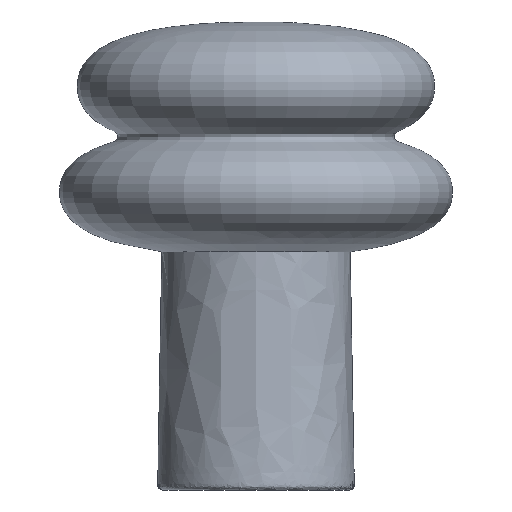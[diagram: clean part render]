
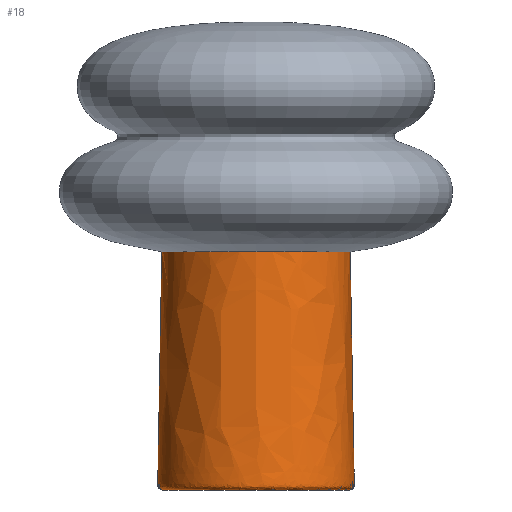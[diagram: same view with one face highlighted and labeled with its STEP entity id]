
A CAD part, front view. The second image highlights one B-rep face of the part: STEP entity #18.
In plain terms, the highlighted free-form (B-spline) face has degree [2, 3] with [5, 8] control points.
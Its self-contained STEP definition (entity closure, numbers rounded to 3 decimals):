
#18=ADVANCED_FACE('',(#23),#74,.T.);
#23=FACE_OUTER_BOUND('',#28,.T.);
#28=EDGE_LOOP('',(#41,#42,#43,#44));
#41=ORIENTED_EDGE('',*,*,#52,.T.);
#42=ORIENTED_EDGE('',*,*,#51,.F.);
#43=ORIENTED_EDGE('',*,*,#48,.T.);
#44=ORIENTED_EDGE('',*,*,#50,.F.);
#48=EDGE_CURVE('',#65,#66,#58,.T.);
#50=EDGE_CURVE('',#69,#66,#55,.T.);
#51=EDGE_CURVE('',#65,#68,#56,.T.);
#52=EDGE_CURVE('',#69,#68,#60,.T.);
#55=(
BOUNDED_CURVE()
B_SPLINE_CURVE(3,(#698,#699,#700,#701,#702,#703,#704,#705),
 .UNSPECIFIED.,.F.,.F.)
B_SPLINE_CURVE_WITH_KNOTS((4,1,3,4),(0.5,0.528,
2.127,48.482),.UNSPECIFIED.)
CURVE()
GEOMETRIC_REPRESENTATION_ITEM()
RATIONAL_B_SPLINE_CURVE((1.,1.,1.,1.,1.,1.,1.,1.))
REPRESENTATION_ITEM('')
);
#56=(
BOUNDED_CURVE()
B_SPLINE_CURVE(3,(#706,#707,#708,#709,#710,#711,#712,#713),
 .UNSPECIFIED.,.F.,.F.)
B_SPLINE_CURVE_WITH_KNOTS((4,3,1,4),(-48.482,-2.127,
-0.528,-0.5),.UNSPECIFIED.)
CURVE()
GEOMETRIC_REPRESENTATION_ITEM()
RATIONAL_B_SPLINE_CURVE((1.,1.,1.,1.,1.,1.,1.,1.))
REPRESENTATION_ITEM('')
);
#58=TRIMMED_CURVE($,#62,(#693),(#694),.T.,.CARTESIAN.);
#60=TRIMMED_CURVE($,#64,(#715),(#716),.T.,.CARTESIAN.);
#62=CIRCLE('',#165,19.172);
#64=CIRCLE('',#167,19.063);
#65=VERTEX_POINT('',#614);
#66=VERTEX_POINT('',#615);
#68=VERTEX_POINT('',#617);
#69=VERTEX_POINT('',#618);
#74=(
BOUNDED_SURFACE()
B_SPLINE_SURFACE(2,3,((#574,#575,#576,#577,#578,#579,#580,#581),(#582,#583,
#584,#585,#586,#587,#588,#589),(#590,#591,#592,#593,#594,#595,#596,#597),
(#598,#599,#600,#601,#602,#603,#604,#605),(#606,#607,#608,#609,#610,#611,
#612,#613)),.UNSPECIFIED.,.F.,.F.,.F.)
B_SPLINE_SURFACE_WITH_KNOTS((3,2,3),(4,1,3,4),(125.55,188.325,
251.1),(0.5,0.509,0.986,48.482),
 .UNSPECIFIED.)
GEOMETRIC_REPRESENTATION_ITEM()
RATIONAL_B_SPLINE_SURFACE(((1.,1.,1.,1.,1.,1.,1.,1.),(0.707,
0.707,0.707,0.707,0.707,
0.707,0.707,0.707),(1.,1.,1.,1.,1.,
1.,1.,1.),(0.707,0.707,0.707,0.707,
0.707,0.707,0.707,0.707),
(1.,1.,1.,1.,1.,1.,1.,1.)))
REPRESENTATION_ITEM('')
SURFACE()
);
#165=AXIS2_PLACEMENT_3D($,#692,#174,#175);
#167=AXIS2_PLACEMENT_3D($,#714,#178,#179);
#174=DIRECTION('',(0.,0.,-1.));
#175=DIRECTION('',(1.,0.,0.));
#178=DIRECTION('',(0.,0.,1.));
#179=DIRECTION('',(-1.,0.,0.));
#574=CARTESIAN_POINT('',(-19.063,0.,0.));
#575=CARTESIAN_POINT('',(-19.071,0.,0.));
#576=CARTESIAN_POINT('',(-19.541,0.,0.003));
#577=CARTESIAN_POINT('',(-20.01,0.,0.477));
#578=CARTESIAN_POINT('',(-20.,0.,1.));
#579=CARTESIAN_POINT('',(-19.724,0.,16.829));
#580=CARTESIAN_POINT('',(-19.448,0.,32.659));
#581=CARTESIAN_POINT('',(-19.172,0.,48.488));
#582=CARTESIAN_POINT('',(-19.063,-19.063,0.));
#583=CARTESIAN_POINT('',(-19.071,-19.071,0.));
#584=CARTESIAN_POINT('',(-19.541,-19.541,0.003));
#585=CARTESIAN_POINT('',(-20.01,-20.01,0.477));
#586=CARTESIAN_POINT('',(-20.,-20.,1.));
#587=CARTESIAN_POINT('',(-19.724,-19.724,16.829));
#588=CARTESIAN_POINT('',(-19.448,-19.448,32.659));
#589=CARTESIAN_POINT('',(-19.171,-19.172,48.488));
#590=CARTESIAN_POINT('',(0.,-19.063,0.));
#591=CARTESIAN_POINT('',(0.,-19.071,0.));
#592=CARTESIAN_POINT('',(0.,-19.541,0.003));
#593=CARTESIAN_POINT('',(0.,-20.01,0.477));
#594=CARTESIAN_POINT('',(0.,-20.,1.));
#595=CARTESIAN_POINT('',(0.,-19.724,16.829));
#596=CARTESIAN_POINT('',(0.,-19.448,32.659));
#597=CARTESIAN_POINT('',(0.,-19.172,48.488));
#598=CARTESIAN_POINT('',(19.063,-19.063,0.));
#599=CARTESIAN_POINT('',(19.071,-19.071,0.));
#600=CARTESIAN_POINT('',(19.541,-19.541,0.003));
#601=CARTESIAN_POINT('',(20.01,-20.01,0.477));
#602=CARTESIAN_POINT('',(20.,-20.,1.));
#603=CARTESIAN_POINT('',(19.724,-19.724,16.829));
#604=CARTESIAN_POINT('',(19.448,-19.448,32.659));
#605=CARTESIAN_POINT('',(19.172,-19.171,48.488));
#606=CARTESIAN_POINT('',(19.063,0.,0.));
#607=CARTESIAN_POINT('',(19.071,0.,0.));
#608=CARTESIAN_POINT('',(19.541,0.,0.003));
#609=CARTESIAN_POINT('',(20.01,0.,0.477));
#610=CARTESIAN_POINT('',(20.,0.,1.));
#611=CARTESIAN_POINT('',(19.724,0.,16.829));
#612=CARTESIAN_POINT('',(19.448,0.,32.659));
#613=CARTESIAN_POINT('',(19.172,0.,48.488));
#614=CARTESIAN_POINT('',(19.172,0.,48.488));
#615=CARTESIAN_POINT('',(-19.172,0.,48.488));
#617=CARTESIAN_POINT('',(19.063,0.,0.));
#618=CARTESIAN_POINT('',(-19.063,0.,0.));
#692=CARTESIAN_POINT('',(0.,0.,48.488));
#693=CARTESIAN_POINT('',(19.172,0.,48.488));
#694=CARTESIAN_POINT('',(-19.172,0.,48.488));
#698=CARTESIAN_POINT('',(-19.063,0.,0.));
#699=CARTESIAN_POINT('',(-19.071,0.,0.));
#700=CARTESIAN_POINT('',(-19.541,0.,0.003));
#701=CARTESIAN_POINT('',(-20.01,0.,0.477));
#702=CARTESIAN_POINT('',(-20.,0.,1.));
#703=CARTESIAN_POINT('',(-19.724,0.,16.829));
#704=CARTESIAN_POINT('',(-19.448,0.,32.659));
#705=CARTESIAN_POINT('',(-19.172,0.,48.488));
#706=CARTESIAN_POINT('',(19.172,0.,48.488));
#707=CARTESIAN_POINT('',(19.448,0.,32.659));
#708=CARTESIAN_POINT('',(19.724,0.,16.829));
#709=CARTESIAN_POINT('',(20.,0.,1.));
#710=CARTESIAN_POINT('',(20.01,0.,0.477));
#711=CARTESIAN_POINT('',(19.541,0.,0.003));
#712=CARTESIAN_POINT('',(19.071,0.,0.));
#713=CARTESIAN_POINT('',(19.063,0.,0.));
#714=CARTESIAN_POINT('',(0.,0.,0.));
#715=CARTESIAN_POINT('',(-19.063,0.,0.));
#716=CARTESIAN_POINT('',(19.063,0.,0.));
